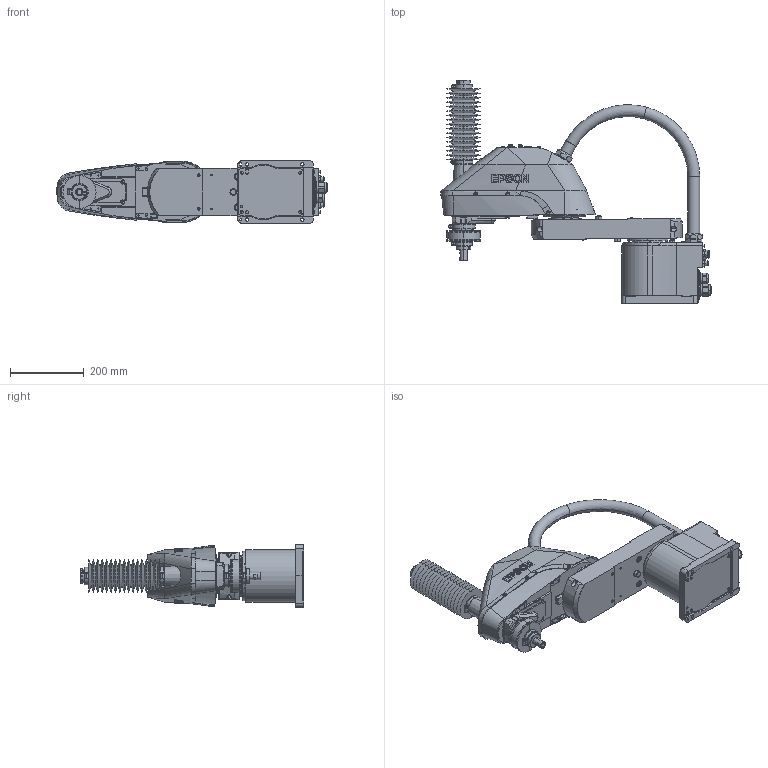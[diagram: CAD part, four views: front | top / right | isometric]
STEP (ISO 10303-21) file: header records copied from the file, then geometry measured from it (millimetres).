
FILE_DESCRIPTION (( 'STEP AP214' ), '1' );
FILE_NAME ('LS8-x502C.STEP', '2026-07-16T16:56:57', ( '' ), ( '' ), 'SwSTEP 2.0', 'SolidWorks 2020', '' );
FILE_SCHEMA (( 'AUTOMOTIVE_DESIGN' ));
Length unit declared in the file: millimetre
Products named in the file (7): LS8-C_BELLOWS1; LS8-CX02C_BOX_; LS8-CX02X_500__ARM1; LS8-x502C; LS8-CX02C_500__HOUSING; LS8-CX02C_Z_AXIS; LS8-C_BELLOWS2
Assembly tree (6 placements, depth 2):
  LS8-x502C
    LS8-CX02C_BOX_
    LS8-CX02X_500__ARM1
    LS8-CX02C_500__HOUSING
    LS8-CX02C_Z_AXIS
    LS8-C_BELLOWS1
    LS8-C_BELLOWS2
Bounding box: 733.25 x 607.5 x 169 mm (x, y, z)
Volume: 8330922.8 mm3; surface area: 1093927.7 mm2
Topology: 5 solids, 6 shells, 2789 faces, 7069 edges, 4556 vertices
Faces by surface type: cylinder 1135, plane 1066, cone 348, torus 119, bspline 61, sphere 60
Entity records: 118570 total; most frequent: CARTESIAN_POINT 45684, ORIENTED_EDGE 14100, DIRECTION 10264, EDGE_CURVE 7052, VERTEX_POINT 4556, AXIS2_PLACEMENT_3D 4265, B_SPLINE_CURVE_WITH_KNOTS 3782, EDGE_LOOP 3109
